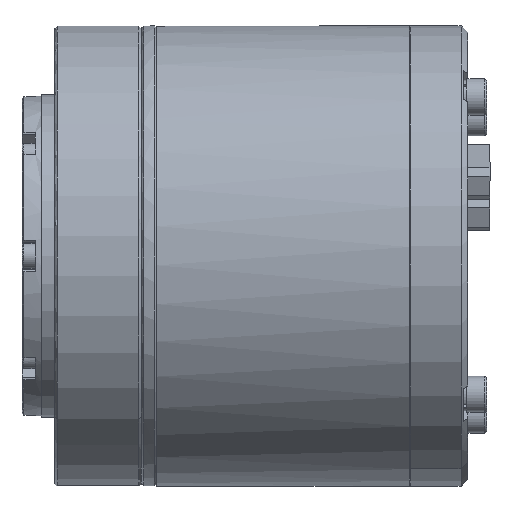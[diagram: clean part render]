
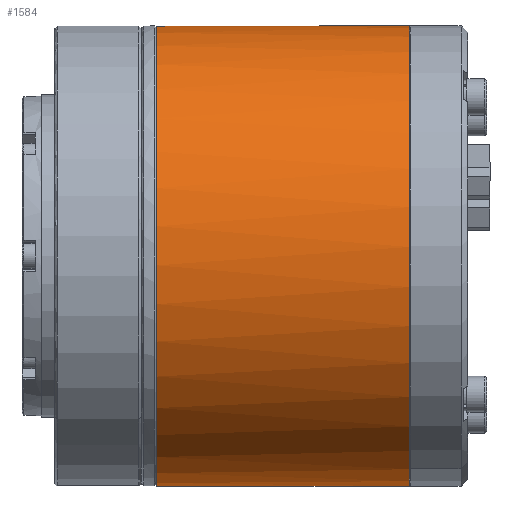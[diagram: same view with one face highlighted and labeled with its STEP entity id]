
A CAD part, front view. The second image highlights one B-rep face of the part: STEP entity #1584.
In plain terms, the highlighted cylindrical face has radius 35 mm (diameter 70 mm), a full revolution.
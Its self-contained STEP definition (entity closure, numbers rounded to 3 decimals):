
#1584 = ADVANCED_FACE ( 'NONE', ( #44614, #2639 ), #61165, .T. ) ;
#2639 = FACE_OUTER_BOUND ( 'NONE', #8238, .T. ) ;
#7102 = DIRECTION ( 'NONE',  ( 1., 0., 0. ) ) ;
#8238 = EDGE_LOOP ( 'NONE', ( #10053 ) ) ;
#10053 = ORIENTED_EDGE ( 'NONE', *, *, #43270, .F. ) ;
#13921 = CARTESIAN_POINT ( 'NONE',  ( 31.868, 1.046, 0. ) ) ;
#18333 = CARTESIAN_POINT ( 'NONE',  ( 64.819, 33.442, -13.247 ) ) ;
#23358 = ORIENTED_EDGE ( 'NONE', *, *, #32653, .F. ) ;
#29273 = VERTEX_POINT ( 'NONE', #18333 ) ;
#32653 = EDGE_CURVE ( 'NONE', #29273, #29273, #35925, .T. ) ;
#33820 = DIRECTION ( 'NONE',  ( -1., 0., 0. ) ) ;
#35925 = CIRCLE ( 'NONE', #39276, 35. ) ;
#39276 = AXIS2_PLACEMENT_3D ( 'NONE', #60310, #7102, #59979 ) ;
#39804 = CARTESIAN_POINT ( 'NONE',  ( 26.519, 1.046, 0. ) ) ;
#40848 = DIRECTION ( 'NONE',  ( 0., 0., -1. ) ) ;
#43270 = EDGE_CURVE ( 'NONE', #56384, #56384, #59956, .T. ) ;
#44614 = FACE_OUTER_BOUND ( 'NONE', #62464, .T. ) ;
#50596 = DIRECTION ( 'NONE',  ( 1., 0., 0. ) ) ;
#55483 = AXIS2_PLACEMENT_3D ( 'NONE', #39804, #33820, #40848 ) ;
#56384 = VERTEX_POINT ( 'NONE', #60985 ) ;
#57430 = AXIS2_PLACEMENT_3D ( 'NONE', #13921, #50596, #67184 ) ;
#59956 = CIRCLE ( 'NONE', #55483, 35. ) ;
#59979 = DIRECTION ( 'NONE',  ( 0., 0.926, -0.378 ) ) ;
#60310 = CARTESIAN_POINT ( 'NONE',  ( 64.819, 1.046, 0. ) ) ;
#60985 = CARTESIAN_POINT ( 'NONE',  ( 26.519, 1.046, -35. ) ) ;
#61165 = CYLINDRICAL_SURFACE ( 'NONE', #57430, 35. ) ;
#62464 = EDGE_LOOP ( 'NONE', ( #23358 ) ) ;
#67184 = DIRECTION ( 'NONE',  ( 0., 0.926, -0.378 ) ) ;
